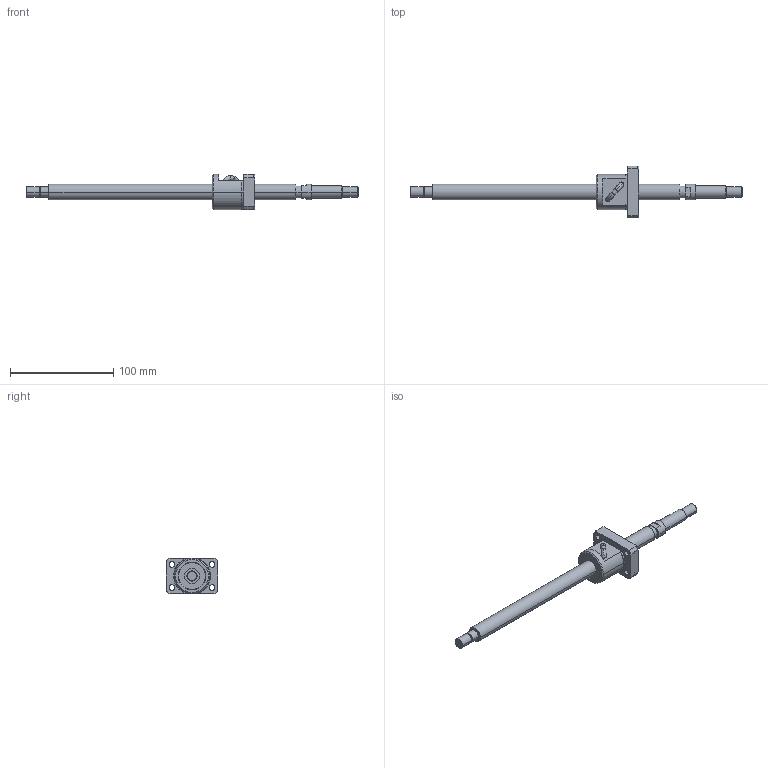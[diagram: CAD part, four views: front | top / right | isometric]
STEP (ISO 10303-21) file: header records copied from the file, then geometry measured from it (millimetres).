
FILE_DESCRIPTION (( 'STEP AP214' ), '1' );
FILE_NAME ('BS1505A-3D.STEP', '2014-03-07T20:29:59', ( '' ), ( '' ), 'SwSTEP 2.0', 'SolidWorks 2012', '' );
FILE_SCHEMA (( 'AUTOMOTIVE_DESIGN' ));
Length unit declared in the file: millimetre
Products named in the file (3): BS1505Aナット; BS1505AŽ²; BS1505A-3D
Assembly tree (2 placements, depth 2):
  BS1505A-3D
    BS1505AŽ²
    BS1505Aナット
Bounding box: 321 x 50 x 34 mm (x, y, z)
Volume: 83028.3 mm3; surface area: 26795 mm2
Topology: 3 solids, 3 shells, 148 faces, 371 edges, 242 vertices
Faces by surface type: cylinder 66, plane 42, cone 34, torus 4, bspline 2
Entity records: 5748 total; most frequent: CARTESIAN_POINT 1947, DIRECTION 774, ORIENTED_EDGE 738, EDGE_CURVE 369, AXIS2_PLACEMENT_3D 323, VERTEX_POINT 242, EDGE_LOOP 181, CIRCLE 172
